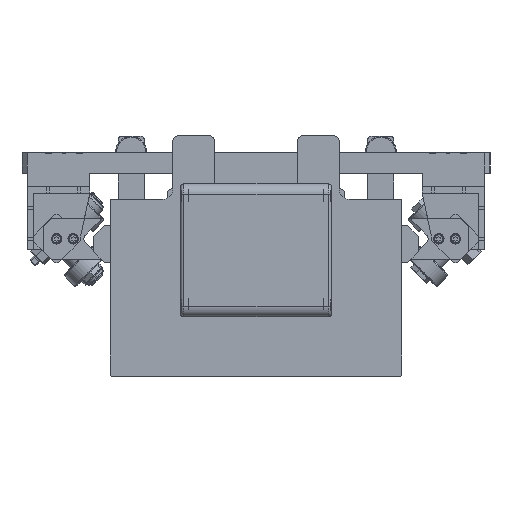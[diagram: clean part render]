
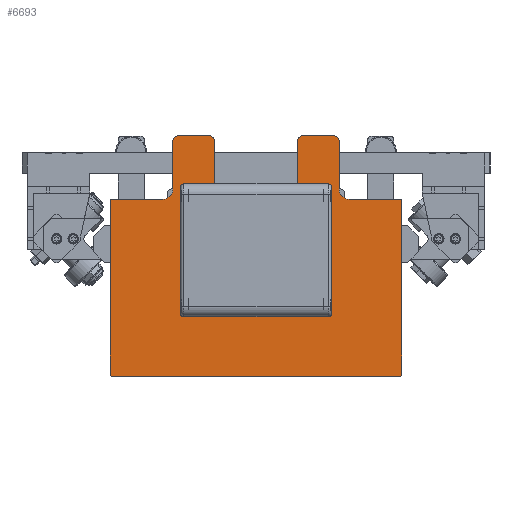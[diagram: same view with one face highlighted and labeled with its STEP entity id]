
A CAD part, front view. The second image highlights one B-rep face of the part: STEP entity #6693.
In plain terms, the highlighted planar face has unit normal (0, -1, 0) as drawn and (0, 0, -1) by its records, which use the part's own axes.
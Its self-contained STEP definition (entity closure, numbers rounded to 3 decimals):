
#5909=CARTESIAN_POINT('',(630.952,543.696,0.0));
#5910=VERTEX_POINT('',#5909);
#5917=CARTESIAN_POINT('',(630.952,592.806,0.0));
#5918=VERTEX_POINT('',#5917);
#5919=CARTESIAN_POINT('',(630.952,543.696,0.0));
#5920=DIRECTION('',(0.0,1.0,0.0));
#5921=VECTOR('',#5920,49.109);
#5922=LINE('',#5919,#5921);
#5923=EDGE_CURVE('',#5910,#5918,#5922,.T.);
#5948=CARTESIAN_POINT('',(640.952,533.696,0.0));
#5949=VERTEX_POINT('',#5948);
#5956=CARTESIAN_POINT('',(640.952,543.696,0.0));
#5957=DIRECTION('',(0.0,0.0,-1.0));
#5958=DIRECTION('',(1.0,0.0,0.0));
#5959=AXIS2_PLACEMENT_3D('',#5956,#5957,#5958);
#5960=CIRCLE('',#5959,10.0);
#5961=EDGE_CURVE('',#5949,#5910,#5960,.T.);
#5980=CARTESIAN_POINT('',(686.952,533.696,0.0));
#5981=VERTEX_POINT('',#5980);
#5988=CARTESIAN_POINT('',(686.952,533.696,0.0));
#5989=DIRECTION('',(-1.0,0.0,0.0));
#5990=VECTOR('',#5989,46.);
#5991=LINE('',#5988,#5990);
#5992=EDGE_CURVE('',#5981,#5949,#5991,.T.);
#6012=CARTESIAN_POINT('',(691.952,528.696,0.0));
#6013=VERTEX_POINT('',#6012);
#6020=CARTESIAN_POINT('',(686.952,528.696,0.0));
#6021=DIRECTION('',(0.0,0.0,1.0));
#6022=DIRECTION('',(1.0,0.0,0.0));
#6023=AXIS2_PLACEMENT_3D('',#6020,#6021,#6022);
#6024=CIRCLE('',#6023,5.0);
#6025=EDGE_CURVE('',#6013,#5981,#6024,.T.);
#6044=CARTESIAN_POINT('',(691.952,498.696,0.0));
#6045=VERTEX_POINT('',#6044);
#6052=CARTESIAN_POINT('',(691.952,498.696,0.0));
#6053=DIRECTION('',(0.0,1.0,0.0));
#6054=VECTOR('',#6053,30.0);
#6055=LINE('',#6052,#6054);
#6056=EDGE_CURVE('',#6045,#6013,#6055,.T.);
#6076=CARTESIAN_POINT('',(686.952,493.696,0.0));
#6077=VERTEX_POINT('',#6076);
#6084=CARTESIAN_POINT('',(686.952,498.696,0.0));
#6085=DIRECTION('',(0.0,0.0,1.0));
#6086=DIRECTION('',(0.0,-1.0,0.0));
#6087=AXIS2_PLACEMENT_3D('',#6084,#6085,#6086);
#6088=CIRCLE('',#6087,5.0);
#6089=EDGE_CURVE('',#6077,#6045,#6088,.T.);
#6108=CARTESIAN_POINT('',(626.952,493.696,0.0));
#6109=VERTEX_POINT('',#6108);
#6116=CARTESIAN_POINT('',(626.952,493.696,0.0));
#6117=DIRECTION('',(1.0,0.0,0.0));
#6118=VECTOR('',#6117,60.);
#6119=LINE('',#6116,#6118);
#6120=EDGE_CURVE('',#6109,#6077,#6119,.T.);
#6140=CARTESIAN_POINT('',(616.952,483.696,0.0));
#6141=VERTEX_POINT('',#6140);
#6148=CARTESIAN_POINT('',(626.952,483.696,0.0));
#6149=DIRECTION('',(0.0,0.0,-1.0));
#6150=DIRECTION('',(0.0,-1.0,0.0));
#6151=AXIS2_PLACEMENT_3D('',#6148,#6149,#6150);
#6152=CIRCLE('',#6151,10.0);
#6153=EDGE_CURVE('',#6141,#6109,#6152,.T.);
#6172=CARTESIAN_POINT('',(616.952,423.915,0.0));
#6173=VERTEX_POINT('',#6172);
#6180=CARTESIAN_POINT('',(616.952,423.915,0.0));
#6181=DIRECTION('',(0.0,1.0,0.0));
#6182=VECTOR('',#6181,59.781);
#6183=LINE('',#6180,#6182);
#6184=EDGE_CURVE('',#6173,#6141,#6183,.T.);
#6204=CARTESIAN_POINT('',(626.952,413.915,0.0));
#6205=VERTEX_POINT('',#6204);
#6212=CARTESIAN_POINT('',(626.952,423.915,0.0));
#6213=DIRECTION('',(0.0,0.0,-1.0));
#6214=DIRECTION('',(1.0,0.0,0.0));
#6215=AXIS2_PLACEMENT_3D('',#6212,#6213,#6214);
#6216=CIRCLE('',#6215,10.0);
#6217=EDGE_CURVE('',#6205,#6173,#6216,.T.);
#6236=CARTESIAN_POINT('',(686.952,413.915,0.0));
#6237=VERTEX_POINT('',#6236);
#6244=CARTESIAN_POINT('',(686.952,413.915,0.0));
#6245=DIRECTION('',(-1.0,0.0,0.0));
#6246=VECTOR('',#6245,60.);
#6247=LINE('',#6244,#6246);
#6248=EDGE_CURVE('',#6237,#6205,#6247,.T.);
#6268=CARTESIAN_POINT('',(691.952,408.915,0.0));
#6269=VERTEX_POINT('',#6268);
#6276=CARTESIAN_POINT('',(686.952,408.915,0.0));
#6277=DIRECTION('',(0.0,0.0,1.0));
#6278=DIRECTION('',(1.0,0.0,0.0));
#6279=AXIS2_PLACEMENT_3D('',#6276,#6277,#6278);
#6280=CIRCLE('',#6279,5.0);
#6281=EDGE_CURVE('',#6269,#6237,#6280,.T.);
#6300=CARTESIAN_POINT('',(691.952,378.915,0.0));
#6301=VERTEX_POINT('',#6300);
#6308=CARTESIAN_POINT('',(691.952,378.915,0.0));
#6309=DIRECTION('',(0.0,1.0,0.0));
#6310=VECTOR('',#6309,30.);
#6311=LINE('',#6308,#6310);
#6312=EDGE_CURVE('',#6301,#6269,#6311,.T.);
#6332=CARTESIAN_POINT('',(686.952,373.915,0.0));
#6333=VERTEX_POINT('',#6332);
#6340=CARTESIAN_POINT('',(686.952,378.915,0.0));
#6341=DIRECTION('',(0.0,0.0,1.0));
#6342=DIRECTION('',(0.0,-1.0,0.0));
#6343=AXIS2_PLACEMENT_3D('',#6340,#6341,#6342);
#6344=CIRCLE('',#6343,5.0);
#6345=EDGE_CURVE('',#6333,#6301,#6344,.T.);
#6364=CARTESIAN_POINT('',(640.952,373.915,0.0));
#6365=VERTEX_POINT('',#6364);
#6372=CARTESIAN_POINT('',(640.952,373.915,0.0));
#6373=DIRECTION('',(1.0,0.0,0.0));
#6374=VECTOR('',#6373,46.);
#6375=LINE('',#6372,#6374);
#6376=EDGE_CURVE('',#6365,#6333,#6375,.T.);
#6396=CARTESIAN_POINT('',(630.952,363.915,0.0));
#6397=VERTEX_POINT('',#6396);
#6404=CARTESIAN_POINT('',(640.952,363.915,0.0));
#6405=DIRECTION('',(0.0,0.0,-1.0));
#6406=DIRECTION('',(0.0,-1.0,0.0));
#6407=AXIS2_PLACEMENT_3D('',#6404,#6405,#6406);
#6408=CIRCLE('',#6407,10.0);
#6409=EDGE_CURVE('',#6397,#6365,#6408,.T.);
#6428=CARTESIAN_POINT('',(630.952,314.806,0.0));
#6429=VERTEX_POINT('',#6428);
#6436=CARTESIAN_POINT('',(630.952,314.806,0.0));
#6437=DIRECTION('',(0.0,1.0,0.0));
#6438=VECTOR('',#6437,49.109);
#6439=LINE('',#6436,#6438);
#6440=EDGE_CURVE('',#6429,#6397,#6439,.T.);
#6460=CARTESIAN_POINT('',(629.952,313.806,0.0));
#6461=VERTEX_POINT('',#6460);
#6468=CARTESIAN_POINT('',(629.952,314.806,0.0));
#6469=DIRECTION('',(0.0,0.0,1.0));
#6470=DIRECTION('',(0.0,-1.0,0.0));
#6471=AXIS2_PLACEMENT_3D('',#6468,#6469,#6470);
#6472=CIRCLE('',#6471,1.0);
#6473=EDGE_CURVE('',#6461,#6429,#6472,.T.);
#6492=CARTESIAN_POINT('',(461.952,313.806,0.0));
#6493=VERTEX_POINT('',#6492);
#6500=CARTESIAN_POINT('',(461.952,313.806,0.0));
#6501=DIRECTION('',(1.0,0.0,0.0));
#6502=VECTOR('',#6501,168.);
#6503=LINE('',#6500,#6502);
#6504=EDGE_CURVE('',#6493,#6461,#6503,.T.);
#6524=CARTESIAN_POINT('',(460.952,314.806,0.0));
#6525=VERTEX_POINT('',#6524);
#6532=CARTESIAN_POINT('',(461.952,314.806,0.0));
#6533=DIRECTION('',(0.0,0.0,1.0));
#6534=DIRECTION('',(-1.0,0.0,0.0));
#6535=AXIS2_PLACEMENT_3D('',#6532,#6533,#6534);
#6536=CIRCLE('',#6535,1.0);
#6537=EDGE_CURVE('',#6525,#6493,#6536,.T.);
#6556=CARTESIAN_POINT('',(460.952,592.806,0.0));
#6557=VERTEX_POINT('',#6556);
#6564=CARTESIAN_POINT('',(460.952,592.806,0.0));
#6565=DIRECTION('',(0.0,-1.0,0.0));
#6566=VECTOR('',#6565,278.);
#6567=LINE('',#6564,#6566);
#6568=EDGE_CURVE('',#6557,#6525,#6567,.T.);
#6588=CARTESIAN_POINT('',(461.952,593.806,0.0));
#6589=VERTEX_POINT('',#6588);
#6596=CARTESIAN_POINT('',(461.952,592.806,0.0));
#6597=DIRECTION('',(0.0,0.0,1.0));
#6598=DIRECTION('',(0.0,1.0,0.0));
#6599=AXIS2_PLACEMENT_3D('',#6596,#6597,#6598);
#6600=CIRCLE('',#6599,1.0);
#6601=EDGE_CURVE('',#6589,#6557,#6600,.T.);
#6620=CARTESIAN_POINT('',(629.952,593.806,0.0));
#6621=VERTEX_POINT('',#6620);
#6628=CARTESIAN_POINT('',(629.952,593.806,0.0));
#6629=DIRECTION('',(-1.0,0.0,0.0));
#6630=VECTOR('',#6629,168.0);
#6631=LINE('',#6628,#6630);
#6632=EDGE_CURVE('',#6621,#6589,#6631,.T.);
#6651=CARTESIAN_POINT('',(629.952,592.806,0.0));
#6652=DIRECTION('',(0.0,0.0,1.0));
#6653=DIRECTION('',(1.0,0.0,0.0));
#6654=AXIS2_PLACEMENT_3D('',#6651,#6652,#6653);
#6655=CIRCLE('',#6654,1.0);
#6656=EDGE_CURVE('',#5918,#6621,#6655,.T.);
#6662=CARTESIAN_POINT('',(573.531,453.806,0.0));
#6663=DIRECTION('',(0.0,0.0,1.0));
#6664=DIRECTION('',(1.0,0.0,0.0));
#6665=AXIS2_PLACEMENT_3D('',#6662,#6663,#6664);
#6666=PLANE('',#6665);
#6667=ORIENTED_EDGE('',*,*,#6656,.F.);
#6668=ORIENTED_EDGE('',*,*,#5923,.F.);
#6669=ORIENTED_EDGE('',*,*,#5961,.F.);
#6670=ORIENTED_EDGE('',*,*,#5992,.F.);
#6671=ORIENTED_EDGE('',*,*,#6025,.F.);
#6672=ORIENTED_EDGE('',*,*,#6056,.F.);
#6673=ORIENTED_EDGE('',*,*,#6089,.F.);
#6674=ORIENTED_EDGE('',*,*,#6120,.F.);
#6675=ORIENTED_EDGE('',*,*,#6153,.F.);
#6676=ORIENTED_EDGE('',*,*,#6184,.F.);
#6677=ORIENTED_EDGE('',*,*,#6217,.F.);
#6678=ORIENTED_EDGE('',*,*,#6248,.F.);
#6679=ORIENTED_EDGE('',*,*,#6281,.F.);
#6680=ORIENTED_EDGE('',*,*,#6312,.F.);
#6681=ORIENTED_EDGE('',*,*,#6345,.F.);
#6682=ORIENTED_EDGE('',*,*,#6376,.F.);
#6683=ORIENTED_EDGE('',*,*,#6409,.F.);
#6684=ORIENTED_EDGE('',*,*,#6440,.F.);
#6685=ORIENTED_EDGE('',*,*,#6473,.F.);
#6686=ORIENTED_EDGE('',*,*,#6504,.F.);
#6687=ORIENTED_EDGE('',*,*,#6537,.F.);
#6688=ORIENTED_EDGE('',*,*,#6568,.F.);
#6689=ORIENTED_EDGE('',*,*,#6601,.F.);
#6690=ORIENTED_EDGE('',*,*,#6632,.F.);
#6691=EDGE_LOOP('',(#6667,#6668,#6669,#6670,#6671,#6672,#6673,#6674,#6675,#6676,#6677,#6678,#6679,#6680,#6681,#6682,#6683,#6684,#6685,#6686,#6687,#6688,#6689,#6690));
#6692=FACE_OUTER_BOUND('',#6691,.T.);
#6693=ADVANCED_FACE('',(#6692),#6666,.F.);
